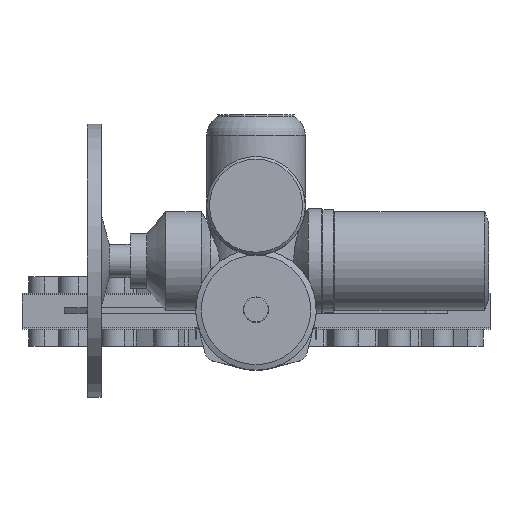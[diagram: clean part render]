
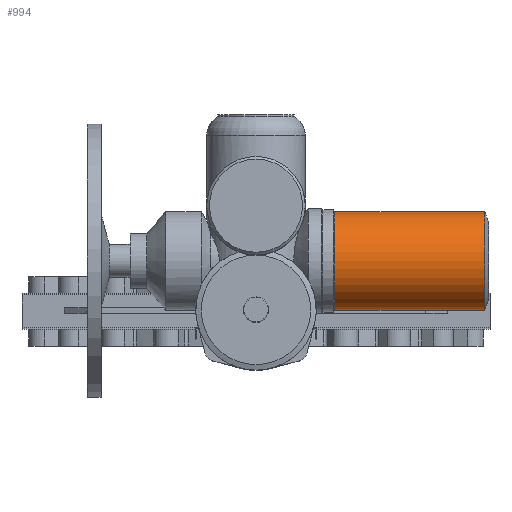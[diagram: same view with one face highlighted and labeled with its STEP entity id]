
A CAD part, top view. The second image highlights one B-rep face of the part: STEP entity #994.
In plain terms, the highlighted cylindrical face has radius 90 mm (diameter 180 mm), a full revolution.
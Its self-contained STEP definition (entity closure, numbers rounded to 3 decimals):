
#994=ADVANCED_FACE('',(#1994,#1996),#1998,.T.);
#1994=FACE_OUTER_BOUND('',#1995,.T.);
#1995=EDGE_LOOP('',(#5265));
#1996=FACE_OUTER_BOUND('',#1997,.T.);
#1997=EDGE_LOOP('',(#5266));
#1998=CYLINDRICAL_SURFACE('',#1999,90.);
#1999=AXIS2_PLACEMENT_3D('',#2000,#2001,#2002);
#2000=CARTESIAN_POINT('',(417.721,90.,1710.));
#2001=DIRECTION('',(-1.,0.,0.));
#2002=DIRECTION('',(0.,0.,1.));
#5265=ORIENTED_EDGE('',*,*,#7824,.T.);
#5266=ORIENTED_EDGE('',*,*,#7822,.F.);
#7822=EDGE_CURVE('',#9790,#9790,#9791,.T.);
#7824=EDGE_CURVE('',#9794,#9794,#9795,.T.);
#9790=VERTEX_POINT('',#12611);
#9791=CIRCLE('',#12612,90.);
#9794=VERTEX_POINT('',#12621);
#9795=CIRCLE('',#12622,90.);
#12611=CARTESIAN_POINT('',(143.811,90.,1800.));
#12612=AXIS2_PLACEMENT_3D('',#12613,#12614,#12615);
#12613=CARTESIAN_POINT('',(143.811,90.,1710.));
#12614=DIRECTION('',(-1.,0.,0.));
#12615=DIRECTION('',(0.,0.,1.));
#12621=CARTESIAN_POINT('',(417.721,90.,1800.));
#12622=AXIS2_PLACEMENT_3D('',#12623,#12624,#12625);
#12623=CARTESIAN_POINT('',(417.721,90.,1710.));
#12624=DIRECTION('',(-1.,0.,0.));
#12625=DIRECTION('',(0.,0.,1.));
